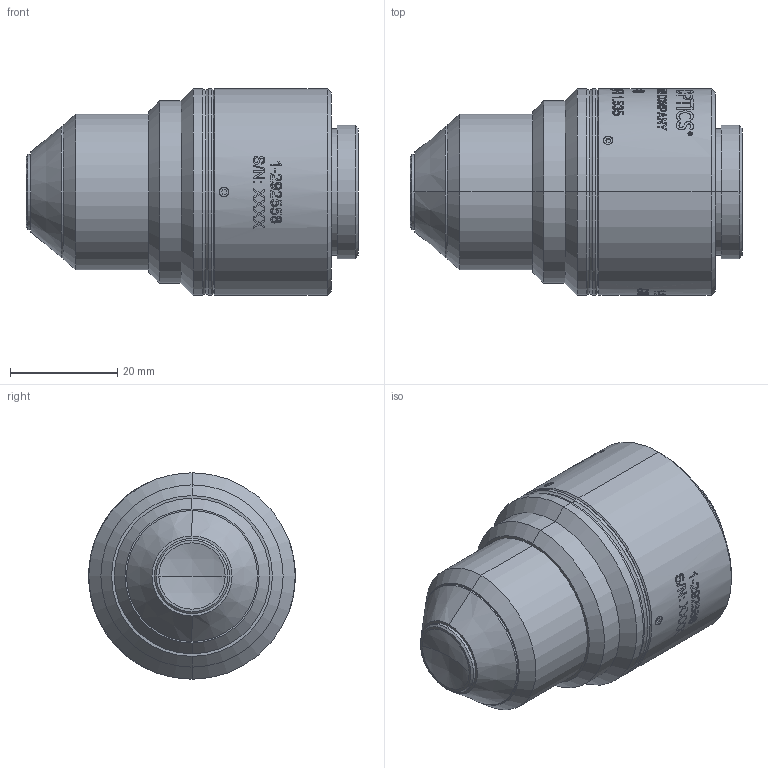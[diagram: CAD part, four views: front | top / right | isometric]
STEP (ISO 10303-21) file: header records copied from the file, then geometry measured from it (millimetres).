
FILE_DESCRIPTION (( 'STEP AP214' ), '1' );
FILE_NAME ('1-292558 (57-12-19 at 480-720nm) Rev A.STEP', '2022-08-09T16:02:06', ( '' ), ( '' ), 'SwSTEP 2.0', 'SolidWorks 2022', '' );
FILE_SCHEMA (( 'AUTOMOTIVE_DESIGN' ));
Length unit declared in the file: millimetre
Products named in the file (1): 1-292558 (57-12-19 at 480-720nm) Rev A
Bounding box: 61.9 x 38.5 x 38.5 mm (x, y, z)
Volume: 47559.9 mm3; surface area: 14438.7 mm2
Topology: 4 solids, 4 shells, 1304 faces, 3434 edges, 2259 vertices
Faces by surface type: bspline 678, plane 365, cylinder 171, cone 76, torus 10, sphere 4
Entity records: 86059 total; most frequent: CARTESIAN_POINT 45620, ORIENTED_EDGE 6856, EDGE_CURVE 3428, DIRECTION 3058, VERTEX_POINT 2259, B_SPLINE_CURVE_WITH_KNOTS 2196, EDGE_LOOP 1437, FACE_OUTER_BOUND 1304
